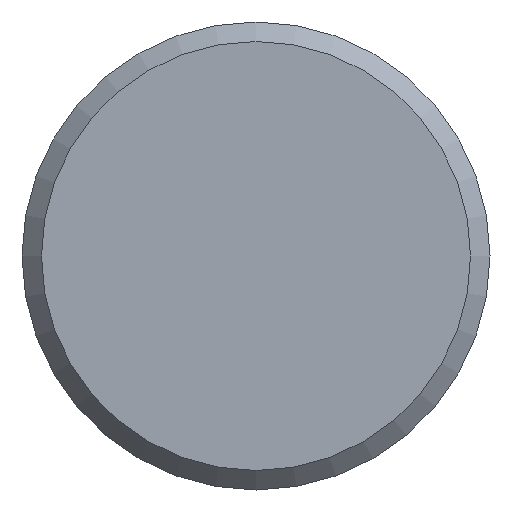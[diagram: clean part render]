
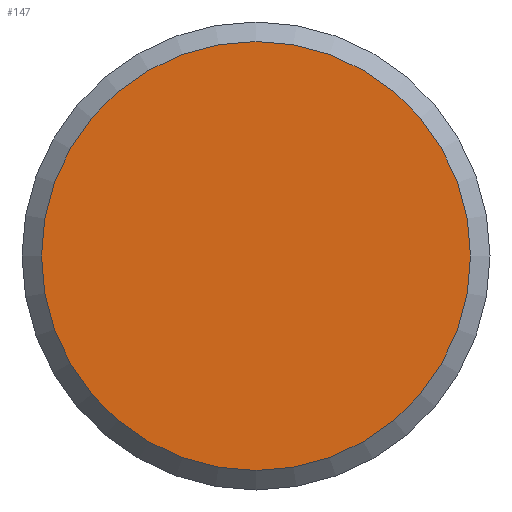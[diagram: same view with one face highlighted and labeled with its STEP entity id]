
A CAD part, front view. The second image highlights one B-rep face of the part: STEP entity #147.
In plain terms, the highlighted planar face has unit normal (0, -1, 0).
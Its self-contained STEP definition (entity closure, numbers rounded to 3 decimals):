
#6 = CARTESIAN_POINT ( 'NONE',  ( 0., 0., 5.5 ) ) ;
#23 = FACE_OUTER_BOUND ( 'NONE', #112, .T. ) ;
#24 = EDGE_CURVE ( 'NONE', #165, #165, #225, .T. ) ;
#56 = CARTESIAN_POINT ( 'NONE',  ( 0., 0., 0. ) ) ;
#74 = PLANE ( 'NONE',  #194 ) ;
#95 = AXIS2_PLACEMENT_3D ( 'NONE', #130, #131, #135 ) ;
#100 = DIRECTION ( 'NONE',  ( 0., 1., 0. ) ) ;
#112 = EDGE_LOOP ( 'NONE', ( #115 ) ) ;
#115 = ORIENTED_EDGE ( 'NONE', *, *, #24, .T. ) ;
#116 = DIRECTION ( 'NONE',  ( 0., 0., 1. ) ) ;
#130 = CARTESIAN_POINT ( 'NONE',  ( 0., 0., 0. ) ) ;
#131 = DIRECTION ( 'NONE',  ( 0., -1., 0. ) ) ;
#135 = DIRECTION ( 'NONE',  ( 0., 0., 1. ) ) ;
#147 = ADVANCED_FACE ( 'NONE', ( #23 ), #74, .F. ) ;
#165 = VERTEX_POINT ( 'NONE', #6 ) ;
#194 = AXIS2_PLACEMENT_3D ( 'NONE', #56, #100, #116 ) ;
#225 = CIRCLE ( 'NONE', #95, 5.5 ) ;
